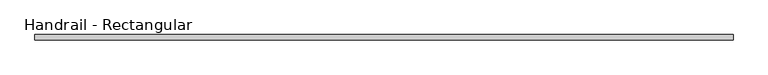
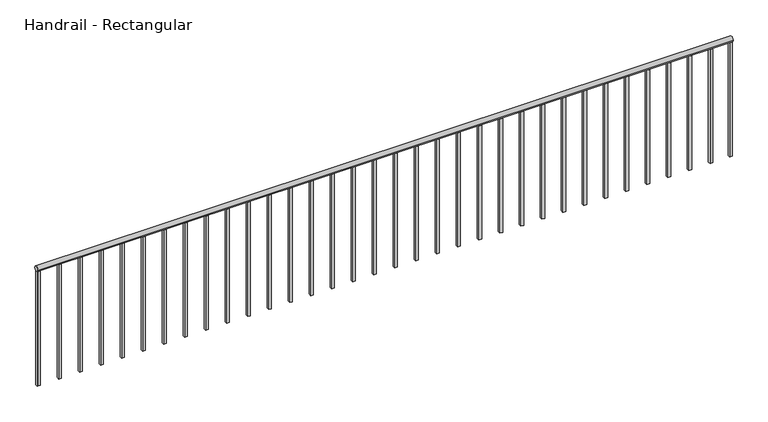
"""IFC4 building model written with IfcOpenShell, lengths in millimetres: railing geometry, Handrail - Rectangular."""

from ifc_helpers import new_model, si_unit, point, frame, frame_2d, origin, place, context, project, spatial, polyline, circle_curve, trimmed, segment, composite_curve, outline, extrude, source, transform, mapped, element, save


def handrail_rectangular_ea3f4b23(model_context):
    return source(origin(), model_context, "Body", "SweptSolid", [
        extrude(outline(composite_curve([segment(trimmed(circle_curve(frame_2d((11944.8316867, 10039.35)), 19.05), [point((11963.8816867, 10039.35))], [point((11925.7816867, 10039.35))], False, "CARTESIAN"), True, "CONTINUOUS"), segment(trimmed(circle_curve(frame_2d((11944.8316867, 10039.35)), 19.05), [point((11925.7816867, 10039.35))], [point((11963.8816867, 10039.35))], False, "CARTESIAN"), True, "CONTINUOUS")], self_intersect=False)), frame((-23747.3839563, 0.0, 0.0), z_axis=(1.0, 0.0, 0.0), x_axis=(0.0, 1.0, 0.0)), (0.0, 0.0, 1.0), 5041.9),
        extrude(outline(polyline([(-23725.1589563, 11935.3066867), (-23744.2089563, 11935.3066867), (-23744.2089563, 11954.3566867), (-23725.1589563, 11954.3566867), (-23725.1589563, 11935.3066867)])), frame((0.0, 0.0, 9144.0), z_axis=(0.0, 0.0, 1.0), x_axis=(1.0, 0.0, 0.0)), (0.0, 0.0, 1.0), 876.3),
        extrude(outline(polyline([(-23572.7589563, 11935.3066867), (-23591.8089563, 11935.3066867), (-23591.8089563, 11954.3566867), (-23572.7589563, 11954.3566867), (-23572.7589563, 11935.3066867)])), frame((0.0, 0.0, 9144.0), z_axis=(0.0, 0.0, 1.0), x_axis=(1.0, 0.0, 0.0)), (0.0, 0.0, 1.0), 876.3),
        extrude(outline(polyline([(-23420.3589563, 11935.3066867), (-23439.4089563, 11935.3066867), (-23439.4089563, 11954.3566867), (-23420.3589563, 11954.3566867), (-23420.3589563, 11935.3066867)])), frame((0.0, 0.0, 9144.0), z_axis=(0.0, 0.0, 1.0), x_axis=(1.0, 0.0, 0.0)), (0.0, 0.0, 1.0), 876.3),
        extrude(outline(polyline([(-23267.9589563, 11935.3066867), (-23287.0089563, 11935.3066867), (-23287.0089563, 11954.3566867), (-23267.9589563, 11954.3566867), (-23267.9589563, 11935.3066867)])), frame((0.0, 0.0, 9144.0), z_axis=(0.0, 0.0, 1.0), x_axis=(1.0, 0.0, 0.0)), (0.0, 0.0, 1.0), 876.3),
        extrude(outline(polyline([(-23115.5589563, 11935.3066867), (-23134.6089563, 11935.3066867), (-23134.6089563, 11954.3566867), (-23115.5589563, 11954.3566867), (-23115.5589563, 11935.3066867)])), frame((0.0, 0.0, 9144.0), z_axis=(0.0, 0.0, 1.0), x_axis=(1.0, 0.0, 0.0)), (0.0, 0.0, 1.0), 876.3),
        extrude(outline(polyline([(-22963.1589563, 11935.3066867), (-22982.2089563, 11935.3066867), (-22982.2089563, 11954.3566867), (-22963.1589563, 11954.3566867), (-22963.1589563, 11935.3066867)])), frame((0.0, 0.0, 9144.0), z_axis=(0.0, 0.0, 1.0), x_axis=(1.0, 0.0, 0.0)), (0.0, 0.0, 1.0), 876.3),
        extrude(outline(polyline([(-22810.7589563, 11935.3066867), (-22829.8089563, 11935.3066867), (-22829.8089563, 11954.3566867), (-22810.7589563, 11954.3566867), (-22810.7589563, 11935.3066867)])), frame((0.0, 0.0, 9144.0), z_axis=(0.0, 0.0, 1.0), x_axis=(1.0, 0.0, 0.0)), (0.0, 0.0, 1.0), 876.3),
        extrude(outline(polyline([(-22658.3589563, 11935.3066867), (-22677.4089563, 11935.3066867), (-22677.4089563, 11954.3566867), (-22658.3589563, 11954.3566867), (-22658.3589563, 11935.3066867)])), frame((0.0, 0.0, 9144.0), z_axis=(0.0, 0.0, 1.0), x_axis=(1.0, 0.0, 0.0)), (0.0, 0.0, 1.0), 876.3),
        extrude(outline(polyline([(-22505.9589563, 11935.3066867), (-22525.0089563, 11935.3066867), (-22525.0089563, 11954.3566867), (-22505.9589563, 11954.3566867), (-22505.9589563, 11935.3066867)])), frame((0.0, 0.0, 9144.0), z_axis=(0.0, 0.0, 1.0), x_axis=(1.0, 0.0, 0.0)), (0.0, 0.0, 1.0), 876.3),
        extrude(outline(polyline([(-22353.5589563, 11935.3066867), (-22372.6089563, 11935.3066867), (-22372.6089563, 11954.3566867), (-22353.5589563, 11954.3566867), (-22353.5589563, 11935.3066867)])), frame((0.0, 0.0, 9144.0), z_axis=(0.0, 0.0, 1.0), x_axis=(1.0, 0.0, 0.0)), (0.0, 0.0, 1.0), 876.3),
        extrude(outline(polyline([(-22201.1589563, 11935.3066867), (-22220.2089563, 11935.3066867), (-22220.2089563, 11954.3566867), (-22201.1589563, 11954.3566867), (-22201.1589563, 11935.3066867)])), frame((0.0, 0.0, 9144.0), z_axis=(0.0, 0.0, 1.0), x_axis=(1.0, 0.0, 0.0)), (0.0, 0.0, 1.0), 876.3),
        extrude(outline(polyline([(-22048.7589563, 11935.3066867), (-22067.8089563, 11935.3066867), (-22067.8089563, 11954.3566867), (-22048.7589563, 11954.3566867), (-22048.7589563, 11935.3066867)])), frame((0.0, 0.0, 9144.0), z_axis=(0.0, 0.0, 1.0), x_axis=(1.0, 0.0, 0.0)), (0.0, 0.0, 1.0), 876.3),
        extrude(outline(polyline([(-21896.3589563, 11935.3066867), (-21915.4089563, 11935.3066867), (-21915.4089563, 11954.3566867), (-21896.3589563, 11954.3566867), (-21896.3589563, 11935.3066867)])), frame((0.0, 0.0, 9144.0), z_axis=(0.0, 0.0, 1.0), x_axis=(1.0, 0.0, 0.0)), (0.0, 0.0, 1.0), 876.3),
        extrude(outline(polyline([(-21743.9589563, 11935.3066867), (-21763.0089563, 11935.3066867), (-21763.0089563, 11954.3566867), (-21743.9589563, 11954.3566867), (-21743.9589563, 11935.3066867)])), frame((0.0, 0.0, 9144.0), z_axis=(0.0, 0.0, 1.0), x_axis=(1.0, 0.0, 0.0)), (0.0, 0.0, 1.0), 876.3),
        extrude(outline(polyline([(-21591.5589563, 11935.3066867), (-21610.6089563, 11935.3066867), (-21610.6089563, 11954.3566867), (-21591.5589563, 11954.3566867), (-21591.5589563, 11935.3066867)])), frame((0.0, 0.0, 9144.0), z_axis=(0.0, 0.0, 1.0), x_axis=(1.0, 0.0, 0.0)), (0.0, 0.0, 1.0), 876.3),
        extrude(outline(polyline([(-21439.1589563, 11935.3066867), (-21458.2089563, 11935.3066867), (-21458.2089563, 11954.3566867), (-21439.1589563, 11954.3566867), (-21439.1589563, 11935.3066867)])), frame((0.0, 0.0, 9144.0), z_axis=(0.0, 0.0, 1.0), x_axis=(1.0, 0.0, 0.0)), (0.0, 0.0, 1.0), 876.3),
        extrude(outline(polyline([(-21286.7589563, 11935.3066867), (-21305.8089563, 11935.3066867), (-21305.8089563, 11954.3566867), (-21286.7589563, 11954.3566867), (-21286.7589563, 11935.3066867)])), frame((0.0, 0.0, 9144.0), z_axis=(0.0, 0.0, 1.0), x_axis=(1.0, 0.0, 0.0)), (0.0, 0.0, 1.0), 876.3),
        extrude(outline(polyline([(-21134.3589563, 11935.3066867), (-21153.4089563, 11935.3066867), (-21153.4089563, 11954.3566867), (-21134.3589563, 11954.3566867), (-21134.3589563, 11935.3066867)])), frame((0.0, 0.0, 9144.0), z_axis=(0.0, 0.0, 1.0), x_axis=(1.0, 0.0, 0.0)), (0.0, 0.0, 1.0), 876.3),
        extrude(outline(polyline([(-20981.9589563, 11935.3066867), (-21001.0089563, 11935.3066867), (-21001.0089563, 11954.3566867), (-20981.9589563, 11954.3566867), (-20981.9589563, 11935.3066867)])), frame((0.0, 0.0, 9144.0), z_axis=(0.0, 0.0, 1.0), x_axis=(1.0, 0.0, 0.0)), (0.0, 0.0, 1.0), 876.3),
        extrude(outline(polyline([(-20829.5589563, 11935.3066867), (-20848.6089563, 11935.3066867), (-20848.6089563, 11954.3566867), (-20829.5589563, 11954.3566867), (-20829.5589563, 11935.3066867)])), frame((0.0, 0.0, 9144.0), z_axis=(0.0, 0.0, 1.0), x_axis=(1.0, 0.0, 0.0)), (0.0, 0.0, 1.0), 876.3),
        extrude(outline(polyline([(-20677.1589563, 11935.3066867), (-20696.2089563, 11935.3066867), (-20696.2089563, 11954.3566867), (-20677.1589563, 11954.3566867), (-20677.1589563, 11935.3066867)])), frame((0.0, 0.0, 9144.0), z_axis=(0.0, 0.0, 1.0), x_axis=(1.0, 0.0, 0.0)), (0.0, 0.0, 1.0), 876.3),
        extrude(outline(polyline([(-20524.7589563, 11935.3066867), (-20543.8089563, 11935.3066867), (-20543.8089563, 11954.3566867), (-20524.7589563, 11954.3566867), (-20524.7589563, 11935.3066867)])), frame((0.0, 0.0, 9144.0), z_axis=(0.0, 0.0, 1.0), x_axis=(1.0, 0.0, 0.0)), (0.0, 0.0, 1.0), 876.3),
        extrude(outline(polyline([(-20372.3589563, 11935.3066867), (-20391.4089563, 11935.3066867), (-20391.4089563, 11954.3566867), (-20372.3589563, 11954.3566867), (-20372.3589563, 11935.3066867)])), frame((0.0, 0.0, 9144.0), z_axis=(0.0, 0.0, 1.0), x_axis=(1.0, 0.0, 0.0)), (0.0, 0.0, 1.0), 876.3),
        extrude(outline(polyline([(-20219.9589563, 11935.3066867), (-20239.0089563, 11935.3066867), (-20239.0089563, 11954.3566867), (-20219.9589563, 11954.3566867), (-20219.9589563, 11935.3066867)])), frame((0.0, 0.0, 9144.0), z_axis=(0.0, 0.0, 1.0), x_axis=(1.0, 0.0, 0.0)), (0.0, 0.0, 1.0), 876.3),
        extrude(outline(polyline([(-20067.5589563, 11935.3066867), (-20086.6089563, 11935.3066867), (-20086.6089563, 11954.3566867), (-20067.5589563, 11954.3566867), (-20067.5589563, 11935.3066867)])), frame((0.0, 0.0, 9144.0), z_axis=(0.0, 0.0, 1.0), x_axis=(1.0, 0.0, 0.0)), (0.0, 0.0, 1.0), 876.3),
        extrude(outline(polyline([(-19915.1589563, 11935.3066867), (-19934.2089563, 11935.3066867), (-19934.2089563, 11954.3566867), (-19915.1589563, 11954.3566867), (-19915.1589563, 11935.3066867)])), frame((0.0, 0.0, 9144.0), z_axis=(0.0, 0.0, 1.0), x_axis=(1.0, 0.0, 0.0)), (0.0, 0.0, 1.0), 876.3),
        extrude(outline(polyline([(-19762.7589563, 11935.3066867), (-19781.8089563, 11935.3066867), (-19781.8089563, 11954.3566867), (-19762.7589563, 11954.3566867), (-19762.7589563, 11935.3066867)])), frame((0.0, 0.0, 9144.0), z_axis=(0.0, 0.0, 1.0), x_axis=(1.0, 0.0, 0.0)), (0.0, 0.0, 1.0), 876.3),
        extrude(outline(polyline([(-19610.3589563, 11935.3066867), (-19629.4089563, 11935.3066867), (-19629.4089563, 11954.3566867), (-19610.3589563, 11954.3566867), (-19610.3589563, 11935.3066867)])), frame((0.0, 0.0, 9144.0), z_axis=(0.0, 0.0, 1.0), x_axis=(1.0, 0.0, 0.0)), (0.0, 0.0, 1.0), 876.3),
        extrude(outline(polyline([(-19457.9589563, 11935.3066867), (-19477.0089563, 11935.3066867), (-19477.0089563, 11954.3566867), (-19457.9589563, 11954.3566867), (-19457.9589563, 11935.3066867)])), frame((0.0, 0.0, 9144.0), z_axis=(0.0, 0.0, 1.0), x_axis=(1.0, 0.0, 0.0)), (0.0, 0.0, 1.0), 876.3),
        extrude(outline(polyline([(-19305.5589563, 11935.3066867), (-19324.6089563, 11935.3066867), (-19324.6089563, 11954.3566867), (-19305.5589563, 11954.3566867), (-19305.5589563, 11935.3066867)])), frame((0.0, 0.0, 9144.0), z_axis=(0.0, 0.0, 1.0), x_axis=(1.0, 0.0, 0.0)), (0.0, 0.0, 1.0), 876.3),
        extrude(outline(polyline([(-19153.1589563, 11935.3066867), (-19172.2089563, 11935.3066867), (-19172.2089563, 11954.3566867), (-19153.1589563, 11954.3566867), (-19153.1589563, 11935.3066867)])), frame((0.0, 0.0, 9144.0), z_axis=(0.0, 0.0, 1.0), x_axis=(1.0, 0.0, 0.0)), (0.0, 0.0, 1.0), 876.3),
        extrude(outline(polyline([(-19000.7589563, 11935.3066867), (-19019.8089563, 11935.3066867), (-19019.8089563, 11954.3566867), (-19000.7589563, 11954.3566867), (-19000.7589563, 11935.3066867)])), frame((0.0, 0.0, 9144.0), z_axis=(0.0, 0.0, 1.0), x_axis=(1.0, 0.0, 0.0)), (0.0, 0.0, 1.0), 876.3),
        extrude(outline(polyline([(-18848.3589563, 11935.3066867), (-18867.4089563, 11935.3066867), (-18867.4089563, 11954.3566867), (-18848.3589563, 11954.3566867), (-18848.3589563, 11935.3066867)])), frame((0.0, 0.0, 9144.0), z_axis=(0.0, 0.0, 1.0), x_axis=(1.0, 0.0, 0.0)), (0.0, 0.0, 1.0), 876.3),
        extrude(outline(polyline([(-23728.3339563, 11935.3066867), (-23747.3839563, 11935.3066867), (-23747.3839563, 11954.3566867), (-23728.3339563, 11954.3566867), (-23728.3339563, 11935.3066867)])), frame((0.0, 0.0, 9144.0), z_axis=(0.0, 0.0, 1.0), x_axis=(1.0, 0.0, 0.0)), (0.0, 0.0, 1.0), 876.3),
        extrude(outline(polyline([(-18705.4839563, 11935.3066867), (-18724.5339563, 11935.3066867), (-18724.5339563, 11954.3566867), (-18705.4839563, 11954.3566867), (-18705.4839563, 11935.3066867)])), frame((0.0, 0.0, 9144.0), z_axis=(0.0, 0.0, 1.0), x_axis=(1.0, 0.0, 0.0)), (0.0, 0.0, 1.0), 876.3),
    ])


if __name__ == "__main__":
    model = new_model("IFC4")
    model_context = context("Model", 3, world=origin())
    ifc_project = project(units=[si_unit("LENGTHUNIT", "METRE", prefix="MILLI")], contexts=[model_context])
    site = spatial("IfcSite", under=ifc_project)
    building = spatial("IfcBuilding", under=site)
    placement = place(None, origin())
    handrail_rectangular_shape = handrail_rectangular_ea3f4b23(model_context)
    element("IfcRailing", 1, ObjectType="Handrail - Rectangular", at=placement, inside=building, context=model_context, shape_type="MappedRepresentation", body=[
        mapped(handrail_rectangular_shape, transform((0.0, 0.0, 0.0), x_axis=(1.0, 0.0, 0.0), y_axis=(0.0, 1.0, 0.0), z_axis=(0.0, 0.0, 1.0))),
    ])
    save(model, "model.ifc")
